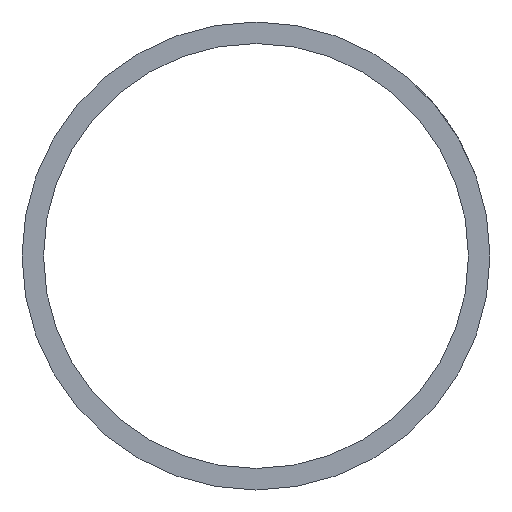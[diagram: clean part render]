
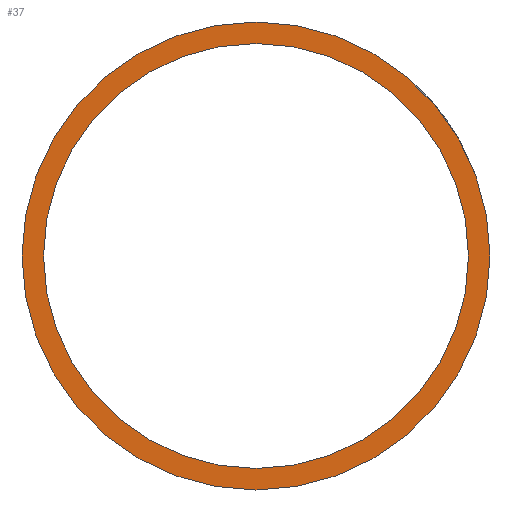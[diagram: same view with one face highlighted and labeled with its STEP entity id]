
A CAD part, left-side view. The second image highlights one B-rep face of the part: STEP entity #37.
In plain terms, the highlighted planar face has unit normal (-1, 0, 0).
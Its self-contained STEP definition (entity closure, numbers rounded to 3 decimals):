
#27=FACE_BOUND('',#57,.F.);
#33=PLANE('',#219);
#37=ADVANCED_FACE('',(#27,#47),#33,.T.);
#47=FACE_OUTER_BOUND('',#58,.F.);
#57=EDGE_LOOP('',(#79,#80));
#58=EDGE_LOOP('',(#81,#82));
#79=ORIENTED_EDGE('',*,*,#175,.T.);
#80=ORIENTED_EDGE('',*,*,#167,.T.);
#81=ORIENTED_EDGE('',*,*,#178,.F.);
#82=ORIENTED_EDGE('',*,*,#170,.F.);
#151=CIRCLE('',#209,27.394);
#154=CIRCLE('',#212,30.163);
#155=CIRCLE('',#213,27.394);
#158=CIRCLE('',#216,30.163);
#167=EDGE_CURVE('',#198,#197,#151,.T.);
#170=EDGE_CURVE('',#192,#191,#154,.T.);
#175=EDGE_CURVE('',#197,#198,#155,.T.);
#178=EDGE_CURVE('',#191,#192,#158,.T.);
#191=VERTEX_POINT('',#277);
#192=VERTEX_POINT('',#278);
#197=VERTEX_POINT('',#283);
#198=VERTEX_POINT('',#284);
#209=AXIS2_PLACEMENT_3D('',#455,#230,#231);
#212=AXIS2_PLACEMENT_3D('',#458,#236,#237);
#213=AXIS2_PLACEMENT_3D('',#463,#242,#243);
#216=AXIS2_PLACEMENT_3D('',#466,#248,#249);
#219=AXIS2_PLACEMENT_3D('',#473,#258,#259);
#230=DIRECTION('',(-1.,0.,0.));
#231=DIRECTION('',(0.,1.,0.));
#236=DIRECTION('',(-1.,0.,0.));
#237=DIRECTION('',(0.,1.,0.));
#242=DIRECTION('',(-1.,0.,0.));
#243=DIRECTION('',(0.,-1.,0.));
#248=DIRECTION('',(-1.,0.,0.));
#249=DIRECTION('',(0.,-1.,0.));
#258=DIRECTION('',(-1.,0.,0.));
#259=DIRECTION('',(0.,0.,1.));
#277=CARTESIAN_POINT('',(2218.632,-3215.694,6835.));
#278=CARTESIAN_POINT('',(2218.632,-3155.369,6835.));
#283=CARTESIAN_POINT('',(2218.632,-3212.925,6835.));
#284=CARTESIAN_POINT('',(2218.632,-3158.137,6835.));
#455=CARTESIAN_POINT('',(2218.632,-3185.531,6835.));
#458=CARTESIAN_POINT('',(2218.632,-3185.531,6835.));
#463=CARTESIAN_POINT('',(2218.632,-3185.531,6835.));
#466=CARTESIAN_POINT('',(2218.632,-3185.531,6835.));
#473=CARTESIAN_POINT('',(2218.632,-3216.297,6804.234));
